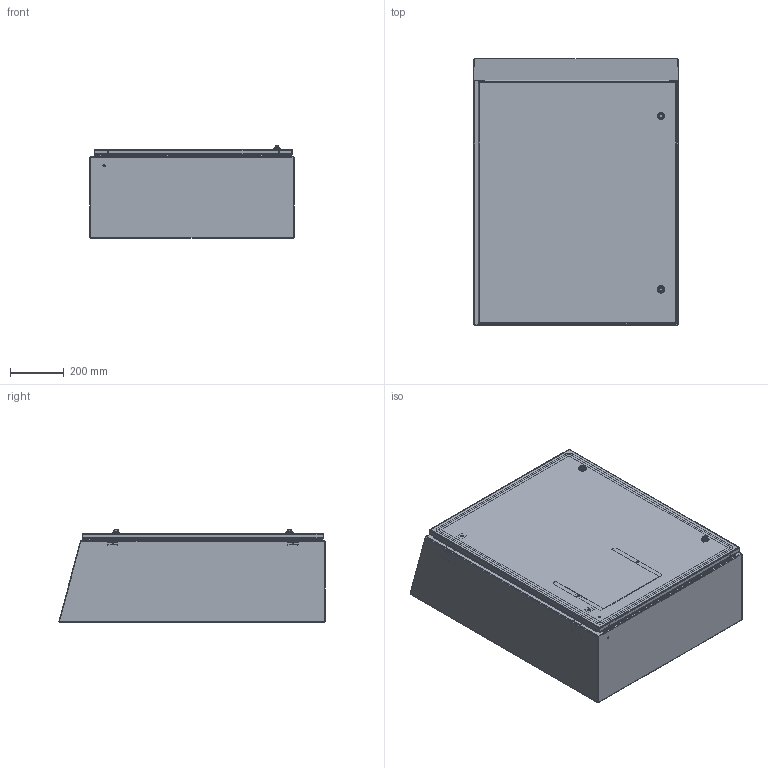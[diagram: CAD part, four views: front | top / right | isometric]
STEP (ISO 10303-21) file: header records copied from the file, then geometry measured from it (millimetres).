
FILE_DESCRIPTION((''),'2;1');
FILE_NAME('MODEL-443_ASM','2021-05-26T14:47:32',('mikek'),('SAGINAW CONTROL & ENGINEERING'),'CREO PARAMETRIC BY PTC INC, 2017260','CREO PARAMETRIC BY PTC INC, 2017260','');
FILE_SCHEMA(('AUTOMOTIVE_DESIGN { 1 0 10303 214 1 1 1 1 }'));
Length unit declared in the file: inch
Products named in the file (31): MODEL-443-BDY; MODEL-443-TP; MODEL-443-BTM; MODEL-443-DR; 100837; 100882; 111267; 116397_SHAFT; 116397_NUT; 116397_INSERT; 116397_SCREW; 116397_OUTER_O-RING; 116397_SUBASSEMBLY_ASM; 116397_CAM; 116397_INNER_O-RING; 116397_ASM; 129123; 129137; 126397; 129137_ASM; 101226; 102483; MODEL-443-DOOR-GASKET; 129279; MODEL-443-DOOR-ASSY_ASM; 101653; 122192; SUBPANEL; 100904; SUBPANEL-SUBASSEMBLY_ASM; MODEL-443_ASM
Assembly tree (55 placements, depth 5):
  MODEL-443_ASM
    MODEL-443-BDY
    MODEL-443-TP
    MODEL-443-BTM
    MODEL-443-DOOR-ASSY_ASM
      MODEL-443-DR
      100837  x5
      100882  x4
      111267
      116397_ASM  x2
        116397_SUBASSEMBLY_ASM
          116397_SHAFT
          116397_NUT
          116397_INSERT
          116397_SCREW
          116397_OUTER_O-RING
        116397_CAM
        116397_INNER_O-RING
      129123  x2
      129137_ASM  x2
        129137
        126397
      101226  x2
      102483  x4
      MODEL-443-DOOR-GASKET
      129279
    100837
    101653  x6
    122192
    SUBPANEL-SUBASSEMBLY_ASM
      SUBPANEL
      100904  x6
Bounding box: 762 x 995.11 x 345.41 mm (x, y, z)
Volume: 8322576.3 mm3; surface area: 7393528.7 mm2
Topology: 56 solids, 56 shells, 3650 faces, 9037 edges, 5546 vertices
Faces by surface type: plane 1242, cylinder 901, bspline 840, torus 390, cone 154, sphere 72, extrusion 39, revolution 12
Entity records: 99171 total; most frequent: CARTESIAN_POINT 37937, ORIENTED_EDGE 8906, DIRECTION 8429, PRESENTATION_STYLE_ASSIGNMENT 4525, STYLED_ITEM 4525, EDGE_CURVE 4453, CURVE_STYLE 4447, AXIS2_PLACEMENT_3D 3180
